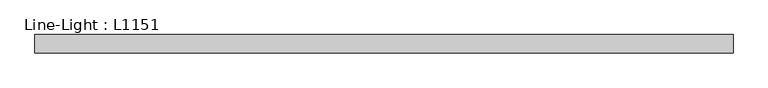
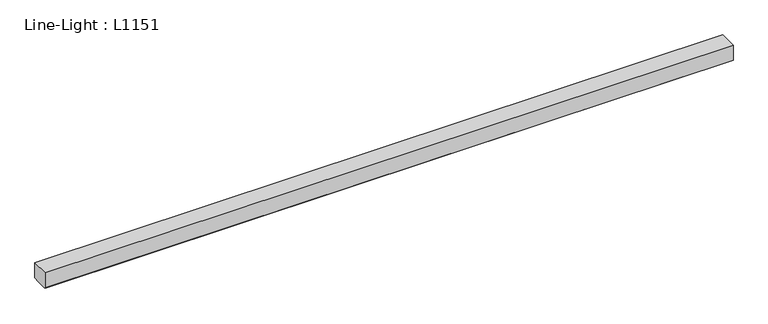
"""IFC4 building model written with IfcOpenShell, lengths in millimetres: light fixture geometry, Line-Light : L1151."""

from ifc_helpers import new_model, si_unit, point, frame, origin, place, context, project, spatial, ellipse_curve, trimmed, source, transform, mapped, element, save
from ifc_brep_helpers import plane_surface, extruded_surface, advanced_brep


def line_light_l1151_cde67e3c(model_context):
    return source(origin(), model_context, "Body", "AdvancedBrep", [
        advanced_brep(
        [(575.5, 4.0, 0.0), (575.5, -26.0, 0.0), (575.5, -26.0, -26.5), (575.5, 4.0, -26.5), (-575.5, 4.0, 0.0), (-575.5, 4.0, -26.5), (-575.5, -26.0, -26.5), (-575.5, -26.0, 0.0)],
        [
            (0, 1),
            (1, 2),
            (2, 3, ellipse_curve(frame((575.5, -11.0, -26.5), z_axis=(1.0, 0.0, 0.0), x_axis=(0.0, -1.0, 0.0)), 15.0, 1.5)),
            (3, 0),
            (4, 5),
            (5, 6, ellipse_curve(frame((-575.5, -11.0, -26.5), z_axis=(-1.0, 0.0, 0.0), x_axis=(0.0, -1.0, 0.0)), 15.0, 1.5)),
            (6, 7),
            (7, 4),
            (0, 4),
            (7, 1),
            (6, 2),
            (5, 3),
        ],
        [
            plane_surface(frame((575.5, -26.0, 0.0), z_axis=(1.0, 0.0, 0.0), x_axis=(0.0, -1.0, 0.0))),
            plane_surface(frame((-575.5, -26.0, 0.0), z_axis=(-1.0, 0.0, 0.0), x_axis=(0.0, 1.0, 0.0))),
            plane_surface(frame((575.5, 4.0, 0.0), z_axis=(0.0, 0.0, 1.0), x_axis=(-1.0, 0.0, 0.0))),
            plane_surface(frame((575.5, -26.0, 0.0), z_axis=(0.0, -1.0, 0.0), x_axis=(-1.0, 0.0, 0.0))),
            extruded_surface(trimmed(ellipse_curve(frame((-1726.5, -11.0, -26.5), z_axis=(1.0, 0.0, 0.0), x_axis=(0.0, -1.0, 0.0)), 15.0, 1.5), [point((-1726.5, -26.0, -26.5))], [point((-1726.5, 4.0, -26.5))], True, "CARTESIAN"), (1151.0, 0.0, 0.0), 1151.0),
            plane_surface(frame((575.5, 4.0, -26.5), z_axis=(0.0, 1.0, 0.0), x_axis=(-1.0, 0.0, 0.0))),
        ],
        [
            (0, [[1, 2, 3, 4]]),
            (1, [[5, 6, 7, 8]]),
            (2, [[-1, 9, -8, 10]]),
            (3, [[-2, -10, -7, 11]]),
            (4, [[-3, -11, -6, 12]]),
            (5, [[-4, -12, -5, -9]]),
        ],
    ),
    ])


if __name__ == "__main__":
    model = new_model("IFC4")
    model_context = context("Model", 3, world=origin())
    ifc_project = project(units=[si_unit("LENGTHUNIT", "METRE", prefix="MILLI")], contexts=[model_context])
    site = spatial("IfcSite", under=ifc_project)
    building = spatial("IfcBuilding", under=site)
    placement = place(None, origin())
    line_light_l1151_shape = line_light_l1151_cde67e3c(model_context)
    element("IfcLightFixture", 1, ObjectType="Line-Light : L1151", at=placement, inside=building, context=model_context, shape_type="MappedRepresentation", body=[
        mapped(line_light_l1151_shape, transform((0.0, 0.0, 0.0), x_axis=(1.0, 0.0, 0.0), y_axis=(0.0, 1.0, 0.0), z_axis=(0.0, 0.0, 1.0))),
    ])
    save(model, "model.ifc")
